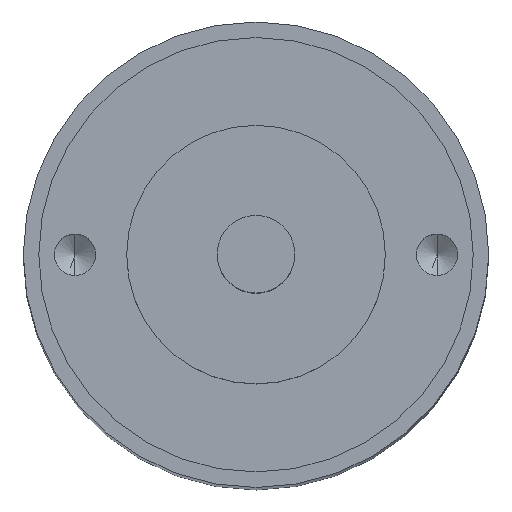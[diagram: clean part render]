
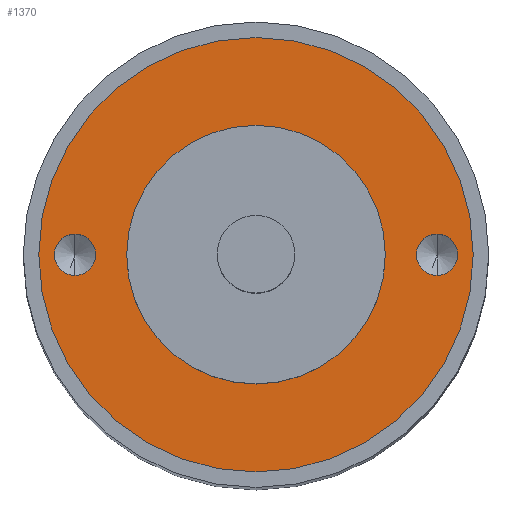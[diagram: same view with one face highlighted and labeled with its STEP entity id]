
A CAD part, top view. The second image highlights one B-rep face of the part: STEP entity #1370.
In plain terms, the highlighted planar face has unit normal (0, 0, 1).
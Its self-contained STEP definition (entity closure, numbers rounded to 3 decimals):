
#1 = EDGE_CURVE ( 'NONE', #3130, #2907, #934, .T. ) ;
#59 = CARTESIAN_POINT ( 'NONE',  ( 0., 5., 0. ) ) ;
#108 = AXIS2_PLACEMENT_3D ( 'NONE', #570, #1758, #336 ) ;
#126 = VERTEX_POINT ( 'NONE', #254 ) ;
#159 = AXIS2_PLACEMENT_3D ( 'NONE', #2688, #2944, #519 ) ;
#179 = AXIS2_PLACEMENT_3D ( 'NONE', #354, #1316, #2286 ) ;
#232 = AXIS2_PLACEMENT_3D ( 'NONE', #621, #2605, #2323 ) ;
#254 = CARTESIAN_POINT ( 'NONE',  ( 0., -5., 0. ) ) ;
#331 = CIRCLE ( 'NONE', #179, 8.4 ) ;
#336 = DIRECTION ( 'NONE',  ( 0., -1., 0. ) ) ;
#354 = CARTESIAN_POINT ( 'NONE',  ( 0., 0., 0. ) ) ;
#403 = CARTESIAN_POINT ( 'NONE',  ( 0., -8.4, 0. ) ) ;
#412 = CIRCLE ( 'NONE', #108, 0.8 ) ;
#433 = DIRECTION ( 'NONE',  ( 0., -1., 0. ) ) ;
#441 = DIRECTION ( 'NONE',  ( 0., 1., 0. ) ) ;
#445 = CIRCLE ( 'NONE', #3080, 0.8 ) ;
#452 = DIRECTION ( 'NONE',  ( 0., 0., -1. ) ) ;
#519 = DIRECTION ( 'NONE',  ( 0., -1., 0. ) ) ;
#541 = CARTESIAN_POINT ( 'NONE',  ( 7., 0.8, 0. ) ) ;
#565 = CIRCLE ( 'NONE', #610, 5. ) ;
#569 = PLANE ( 'NONE',  #159 ) ;
#570 = CARTESIAN_POINT ( 'NONE',  ( -7., 0., 0. ) ) ;
#610 = AXIS2_PLACEMENT_3D ( 'NONE', #3135, #1631, #441 ) ;
#621 = CARTESIAN_POINT ( 'NONE',  ( -7., 0., 0. ) ) ;
#626 = EDGE_CURVE ( 'NONE', #2698, #126, #2720, .T. ) ;
#689 = CARTESIAN_POINT ( 'NONE',  ( 0., 0., 0. ) ) ;
#725 = EDGE_CURVE ( 'NONE', #915, #2205, #445, .T. ) ;
#738 = ORIENTED_EDGE ( 'NONE', *, *, #1123, .F. ) ;
#779 = VERTEX_POINT ( 'NONE', #2883 ) ;
#827 = AXIS2_PLACEMENT_3D ( 'NONE', #689, #452, #1929 ) ;
#893 = EDGE_LOOP ( 'NONE', ( #738, #2951 ) ) ;
#915 = VERTEX_POINT ( 'NONE', #541 ) ;
#934 = CIRCLE ( 'NONE', #232, 0.8 ) ;
#949 = ORIENTED_EDGE ( 'NONE', *, *, #626, .T. ) ;
#1123 = EDGE_CURVE ( 'NONE', #779, #2956, #331, .T. ) ;
#1151 = EDGE_CURVE ( 'NONE', #126, #2698, #565, .T. ) ;
#1173 = CARTESIAN_POINT ( 'NONE',  ( 7., 0., 0. ) ) ;
#1194 = ORIENTED_EDGE ( 'NONE', *, *, #2774, .F. ) ;
#1220 = EDGE_LOOP ( 'NONE', ( #949, #1917 ) ) ;
#1221 = EDGE_LOOP ( 'NONE', ( #2122, #2225 ) ) ;
#1253 = AXIS2_PLACEMENT_3D ( 'NONE', #1620, #1337, #2306 ) ;
#1287 = AXIS2_PLACEMENT_3D ( 'NONE', #2168, #1909, #2914 ) ;
#1316 = DIRECTION ( 'NONE',  ( 0., 0., -1. ) ) ;
#1326 = CARTESIAN_POINT ( 'NONE',  ( -7., -0.8, 0. ) ) ;
#1337 = DIRECTION ( 'NONE',  ( 0., 0., -1. ) ) ;
#1370 = ADVANCED_FACE ( 'NONE', ( #1500, #1722, #2735, #2911 ), #569, .T. ) ;
#1491 = CIRCLE ( 'NONE', #1287, 0.8 ) ;
#1500 = FACE_BOUND ( 'NONE', #1221, .T. ) ;
#1620 = CARTESIAN_POINT ( 'NONE',  ( 0., 0., 0. ) ) ;
#1631 = DIRECTION ( 'NONE',  ( 0., 0., -1. ) ) ;
#1722 = FACE_BOUND ( 'NONE', #2158, .T. ) ;
#1758 = DIRECTION ( 'NONE',  ( 0., 0., 1. ) ) ;
#1863 = EDGE_CURVE ( 'NONE', #2205, #915, #1491, .T. ) ;
#1909 = DIRECTION ( 'NONE',  ( 0., 0., 1. ) ) ;
#1917 = ORIENTED_EDGE ( 'NONE', *, *, #1151, .T. ) ;
#1929 = DIRECTION ( 'NONE',  ( 0., 1., 0. ) ) ;
#1961 = CARTESIAN_POINT ( 'NONE',  ( -7., 0.8, 0. ) ) ;
#2122 = ORIENTED_EDGE ( 'NONE', *, *, #1863, .F. ) ;
#2158 = EDGE_LOOP ( 'NONE', ( #1194, #2936 ) ) ;
#2168 = CARTESIAN_POINT ( 'NONE',  ( 7., 0., 0. ) ) ;
#2173 = EDGE_CURVE ( 'NONE', #2956, #779, #2806, .T. ) ;
#2205 = VERTEX_POINT ( 'NONE', #3106 ) ;
#2225 = ORIENTED_EDGE ( 'NONE', *, *, #725, .F. ) ;
#2286 = DIRECTION ( 'NONE',  ( 0., 1., 0. ) ) ;
#2306 = DIRECTION ( 'NONE',  ( 0., 1., 0. ) ) ;
#2323 = DIRECTION ( 'NONE',  ( 0., -1., 0. ) ) ;
#2603 = DIRECTION ( 'NONE',  ( 0., 0., 1. ) ) ;
#2605 = DIRECTION ( 'NONE',  ( 0., 0., 1. ) ) ;
#2688 = CARTESIAN_POINT ( 'NONE',  ( 0., 5., 0. ) ) ;
#2698 = VERTEX_POINT ( 'NONE', #59 ) ;
#2720 = CIRCLE ( 'NONE', #1253, 5. ) ;
#2735 = FACE_BOUND ( 'NONE', #1220, .T. ) ;
#2774 = EDGE_CURVE ( 'NONE', #2907, #3130, #412, .T. ) ;
#2806 = CIRCLE ( 'NONE', #827, 8.4 ) ;
#2883 = CARTESIAN_POINT ( 'NONE',  ( 0., 8.4, 0. ) ) ;
#2907 = VERTEX_POINT ( 'NONE', #1326 ) ;
#2911 = FACE_OUTER_BOUND ( 'NONE', #893, .T. ) ;
#2914 = DIRECTION ( 'NONE',  ( 0., -1., 0. ) ) ;
#2936 = ORIENTED_EDGE ( 'NONE', *, *, #1, .F. ) ;
#2944 = DIRECTION ( 'NONE',  ( 0., 0., 1. ) ) ;
#2951 = ORIENTED_EDGE ( 'NONE', *, *, #2173, .F. ) ;
#2956 = VERTEX_POINT ( 'NONE', #403 ) ;
#3080 = AXIS2_PLACEMENT_3D ( 'NONE', #1173, #2603, #433 ) ;
#3106 = CARTESIAN_POINT ( 'NONE',  ( 7., -0.8, 0. ) ) ;
#3130 = VERTEX_POINT ( 'NONE', #1961 ) ;
#3135 = CARTESIAN_POINT ( 'NONE',  ( 0., 0., 0. ) ) ;
